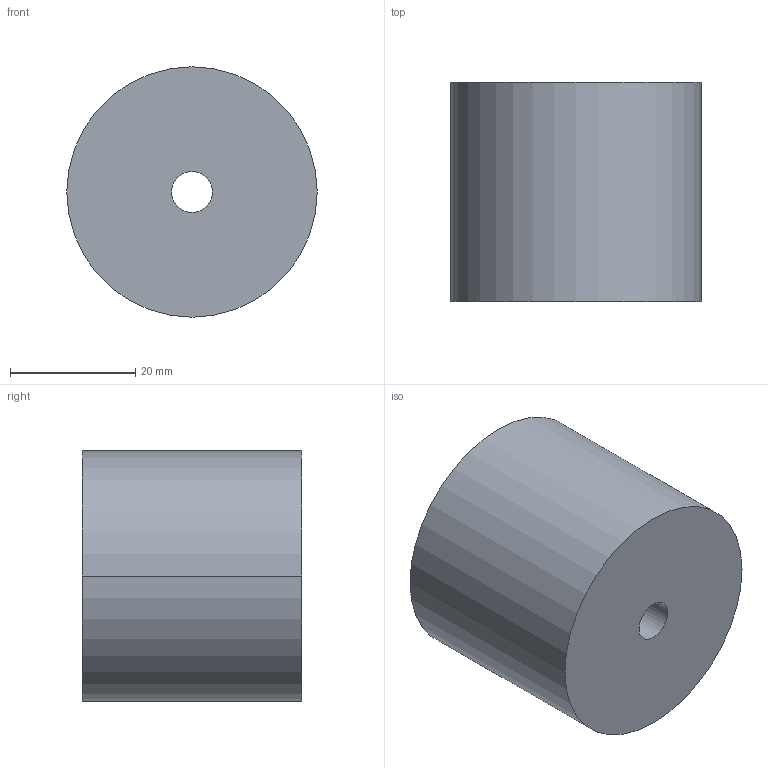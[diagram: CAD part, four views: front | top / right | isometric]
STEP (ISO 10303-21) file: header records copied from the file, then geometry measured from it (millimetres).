
FILE_DESCRIPTION (( 'STEP AP214' ), '1' );
FILE_NAME ('0776-001.STEP', '2023-07-18T08:12:50', ( '' ), ( '' ), 'SwSTEP 2.0', 'SolidWorks 2023', '' );
FILE_SCHEMA (( 'AUTOMOTIVE_DESIGN' ));
Length unit declared in the file: millimetre
Products named in the file (1): 0776-001
Bounding box: 40 x 35 x 40 mm (x, y, z)
Volume: 31681.2 mm3; surface area: 8900.8 mm2
Topology: 1 solids, 1 shells, 22 faces, 44 edges, 26 vertices
Faces by surface type: cylinder 12, cone 6, plane 4
Entity records: 601 total; most frequent: DIRECTION 116, CARTESIAN_POINT 93, ORIENTED_EDGE 88, AXIS2_PLACEMENT_3D 49, EDGE_CURVE 44, EDGE_LOOP 26, CIRCLE 26, VERTEX_POINT 26
